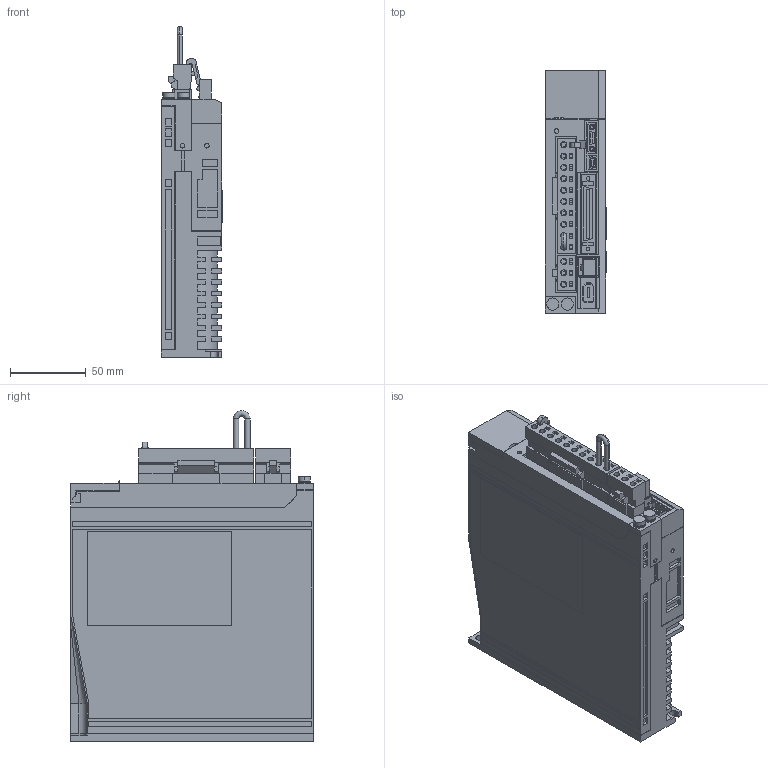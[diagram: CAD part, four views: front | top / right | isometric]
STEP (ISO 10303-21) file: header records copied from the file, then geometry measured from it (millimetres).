
FILE_DESCRIPTION (( 'STEP AP203' ), '1' );
FILE_NAME ('sgdv_2r8a0_a.STEP', '2008-06-17T08:24:09', ( 'T' ), ( 'T' ), 'SwSTEP 2.0', 'SolidWorks 2006052', '' );
FILE_SCHEMA (( 'CONFIG_CONTROL_DESIGN' ));
Products named in the file (10): sgdv_2r8a0_a_pin; sgdv_2r8a0_a_cover; sgdv_2r8a0_a_connector_1; sgdv_2r8a0_a; sgdv_2r8a0_a_base; sgdv_2r8a0_a_connector; sgdv_2r8a0_a_connector_2; sgdv_2r8a0_a_cable; sgdv_2r8a0_a_cover2; sgdv_2r8a0_a_connector_3
Assembly tree (10 placements, depth 3):
  sgdv_2r8a0_a
    sgdv_2r8a0_a_cover2  x2
    sgdv_2r8a0_a_connector_1
    sgdv_2r8a0_a_connector_3
    sgdv_2r8a0_a_cover
    sgdv_2r8a0_a_connector
      sgdv_2r8a0_a_cable
      sgdv_2r8a0_a_connector_2
      sgdv_2r8a0_a_pin
    sgdv_2r8a0_a_base
Bounding box: 40.5 x 160 x 218 mm (x, y, z)
Volume: 993188.7 mm3; surface area: 157927.4 mm2
Topology: 9 solids, 9 shells, 1882 faces, 4970 edges, 3282 vertices
Faces by surface type: plane 1629, cylinder 245, cone 4, torus 2, sphere 1, bspline 1
Entity records: 57900 total; most frequent: CARTESIAN_POINT 10115, ORIENTED_EDGE 9832, DIRECTION 9211, EDGE_CURVE 4916, VECTOR 4355, LINE 4355, VERTEX_POINT 3246, AXIS2_PLACEMENT_3D 2428
